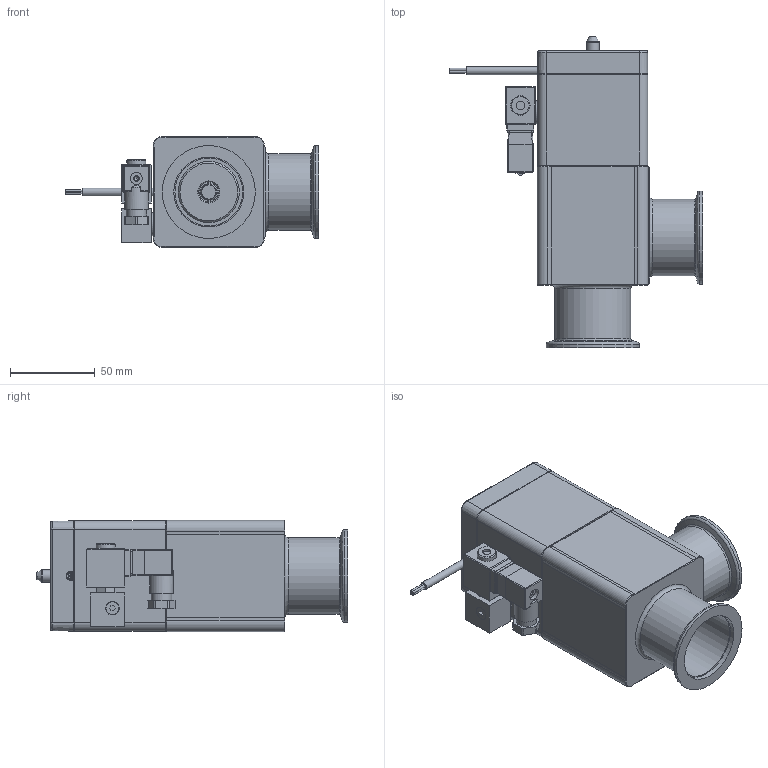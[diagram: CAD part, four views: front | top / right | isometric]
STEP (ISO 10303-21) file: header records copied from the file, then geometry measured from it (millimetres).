
FILE_DESCRIPTION(/* description */ (''),/* implementation_level */ '2;1');
FILE_NAME(/* name */ '1289137003_203.stp',/* time_stamp */ '2013-06-14T10:35:22+02:00',/* author */ (''),/* organization */ (''),/* preprocessor_version */ 'ST-DEVELOPER v11',/* originating_system */ 'SIEMENS PLM Software NX 7.5',/* authorisation */ '');
FILE_SCHEMA (('AP203_CONFIGURATION_CONTROLLED_3D_DESIGN_OF_MECHANICAL_PARTS_AND_ASSEMBLIES_MIM_LF'));
Length unit declared in the file: millimetre
Products named in the file (14): 239888_6.1; 233232; 236208.2; 236204_1.1; 238513.2; 238512.3; 243875.2; 232294.14; 238487.6; 239737.6; 240792.1; 402933; 235683.15_NX-ARRAGMNTZUSAMMENST1; 429878
Assembly tree (18 placements, depth 3):
  429878
    240792.1  x4
    239737.6
    238487.6
    235683.15_NX-ARRAGMNTZUSAMMENST1
      238512.3
      238513.2
    232294.14
    243875.2
    402933
      236204_1.1  x2
      236208.2  x2
      233232
      239888_6.1
Bounding box: 149.82 x 183.79 x 65.59 mm (x, y, z)
Volume: 333757.6 mm3; surface area: 138644 mm2
Topology: 25 solids, 25 shells, 861 faces, 2056 edges, 1325 vertices
Faces by surface type: plane 504, cylinder 214, cone 101, bspline 23, torus 13, sphere 6
Full cylindrical faces by diameter (mm): 1.4 x8, 2 x6, 2.2 x4, 2.5 x4, 2.95 x1, 3 x8, 3.2 x4, 3.26 x4, 3.3 x5, 4 x12, 4.5 x5, 4.6 x2, 4.7 x3, 5 x4, 5.6 x2, 6 x1, 7 x5, 7.4 x2, 7.6 x1, 7.9 x1, 8 x8, 9.1 x1, 10 x1, 10.2 x1, 11.3 x1, 11.4 x1, 11.5 x1, 11.975 x3, 12 x1, 12.012 x1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
Entity records: 23834 total; most frequent: CARTESIAN_POINT 4717, DIRECTION 3488, ORIENTED_EDGE 3186, EDGE_CURVE 1593, AXIS2_PLACEMENT_3D 1225, VERTEX_POINT 1135, EDGE_LOOP 1047, LINE 1038
